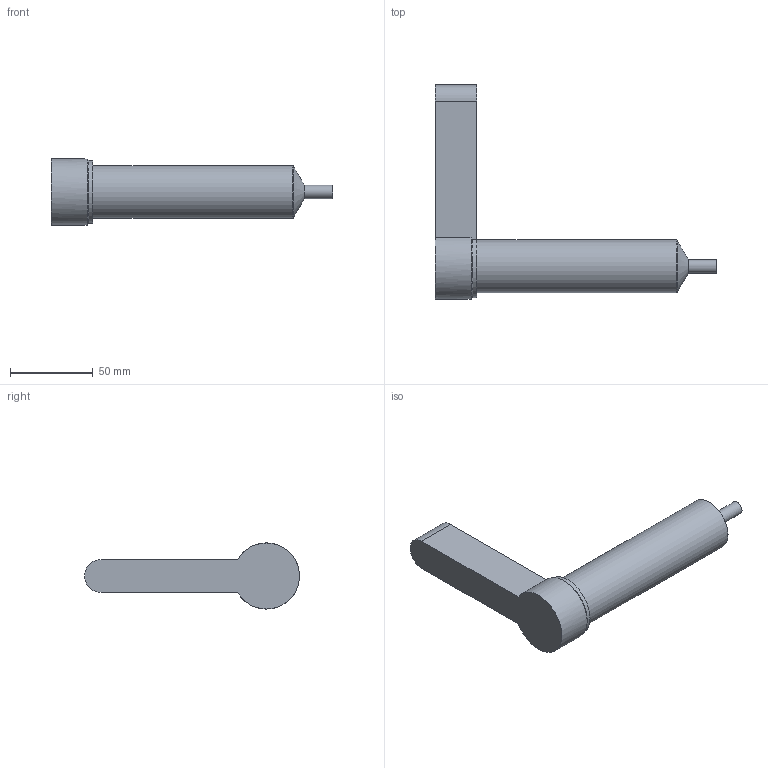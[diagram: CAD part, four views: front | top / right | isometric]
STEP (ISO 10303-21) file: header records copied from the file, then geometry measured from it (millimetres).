
FILE_DESCRIPTION( ( 'STEP AP214' ), '1' );
FILE_NAME( 'D:/_Documentos/Marco/MARCO/Bicos 3D/BIS''S/TOE/18/new/steps/BIS18 TOE 155 cut-out.step', ' ', ( ' ' ), ( ' ' ), 'PSStep 10.0', ' ', ' ' );
FILE_SCHEMA( ( 'automotive_design' ) );
Length unit declared in the file: millimetre
Products named in the file (1): OBJECTO_CORTE
Bounding box: 170 x 130 x 40 mm (x, y, z)
Volume: 176136.8 mm3; surface area: 26241.3 mm2
Topology: 1 solids, 1 shells, 14 faces, 32 edges, 21 vertices
Faces by surface type: cylinder 6, plane 5, cone 2, torus 1
Full cylindrical faces by diameter (mm): 8 x1, 32 x1
Entity records: 586 total; most frequent: CARTESIAN_POINT 161, DIRECTION 65, ORIENTED_EDGE 52, AXIS2_PLACEMENT_3D 27, EDGE_CURVE 26, EDGE_LOOP 19, VERTEX_POINT 19, FACE_OUTER_BOUND 17
